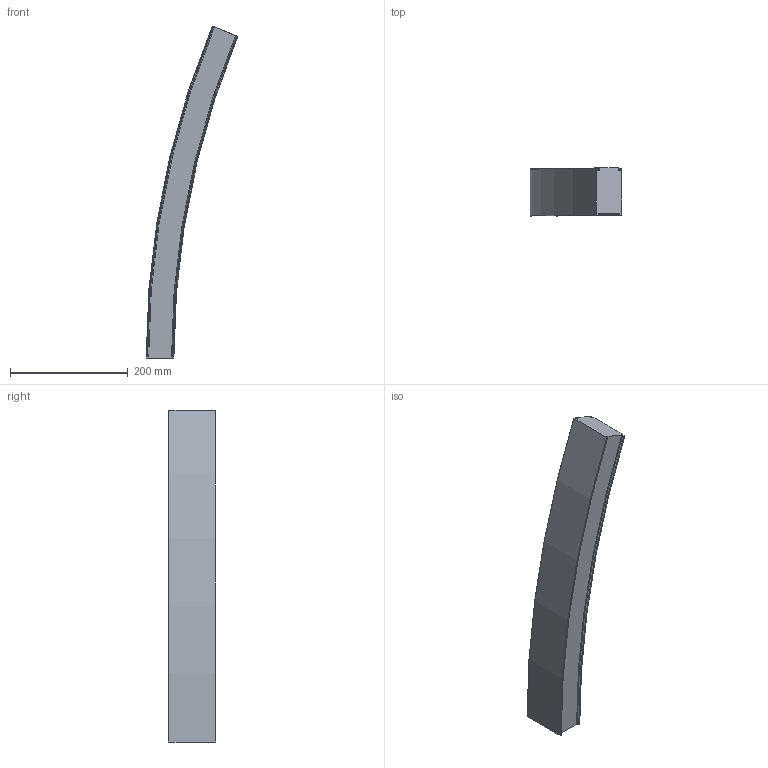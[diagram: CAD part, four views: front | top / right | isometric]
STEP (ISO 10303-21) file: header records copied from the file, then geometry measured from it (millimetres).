
FILE_DESCRIPTION (( 'STEP AP203' ), '1' );
FILE_NAME ('mLight_Swerve 47_R1450 mm 22.5 deg.STEP', '2020-04-01T00:53:02', ( '' ), ( '' ), 'SwSTEP 2.0', 'SolidWorks 2017', '' );
FILE_SCHEMA (( 'CONFIG_CONTROL_DESIGN' ));
Length unit declared in the file: millimetre
Products named in the file (1): mLight_Swerve 47_R1450 mm 22.5 deg
Bounding box: 155.59 x 80.63 x 563.88 mm (x, y, z)
Volume: 2052909.5 mm3; surface area: 164423.7 mm2
Topology: 1 solids, 1 shells, 46 faces, 132 edges, 88 vertices
Faces by surface type: torus 24, plane 10, cylinder 6, cone 6
Entity records: 1645 total; most frequent: DIRECTION 318, CARTESIAN_POINT 267, ORIENTED_EDGE 264, AXIS2_PLACEMENT_3D 139, EDGE_CURVE 132, CIRCLE 92, VERTEX_POINT 88, FACE_OUTER_BOUND 46
